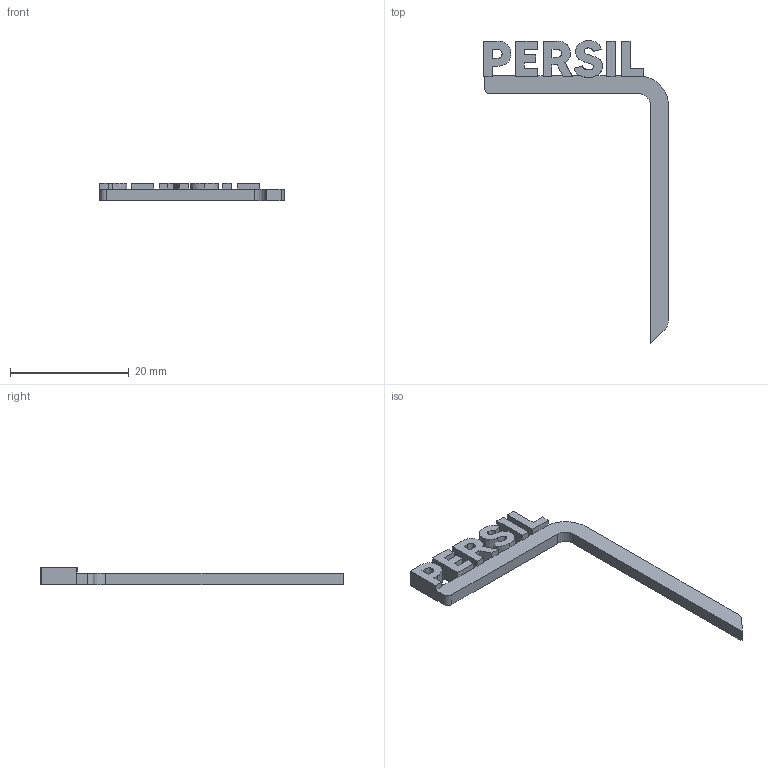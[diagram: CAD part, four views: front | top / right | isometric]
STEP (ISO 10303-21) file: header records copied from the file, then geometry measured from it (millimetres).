
FILE_DESCRIPTION(('STEP AP214'),'1');
FILE_NAME('Persil .stp','2025-04-24T13:29:10',(' '),(' '),'Spatial InterOp 3D',' ',' ');
FILE_SCHEMA(('AUTOMOTIVE_DESIGN { 1 0 10303 214 1 1 1 1 }'));
Length unit declared in the file: millimetre
Products named in the file (1): Persil 
Bounding box: 31.13 x 50.96 x 3 mm (x, y, z)
Volume: 698.4 mm3; surface area: 1269.3 mm2
Topology: 1 solids, 1 shells, 86 faces, 257 edges, 172 vertices
Faces by surface type: plane 62, extrusion 20, cylinder 4
Entity records: 3767 total; most frequent: CARTESIAN_POINT 792, ORIENTED_EDGE 514, DIRECTION 375, EDGE_CURVE 257, VECTOR 225, LINE 205, VERTEX_POINT 172, EDGE_LOOP 91
